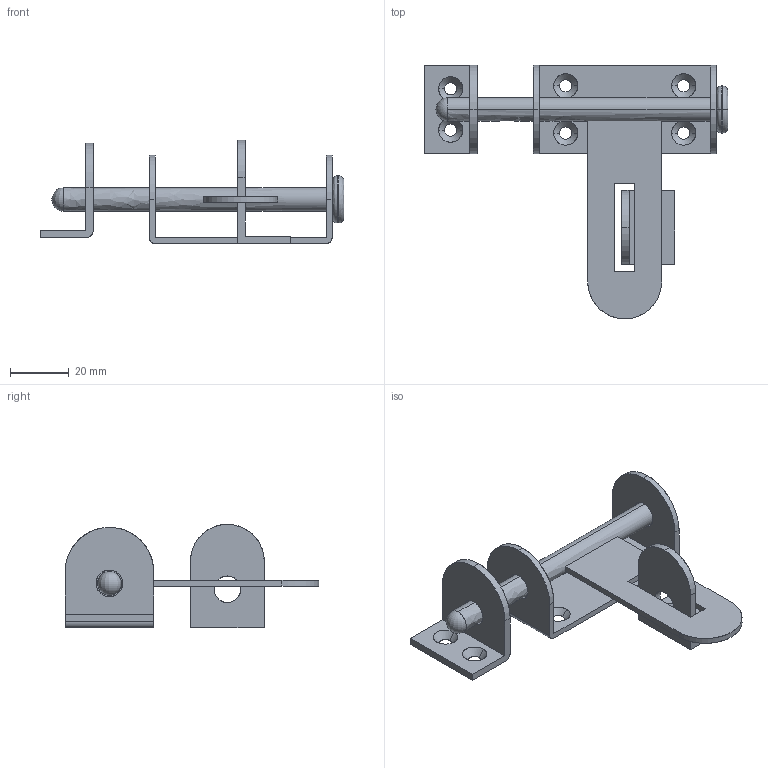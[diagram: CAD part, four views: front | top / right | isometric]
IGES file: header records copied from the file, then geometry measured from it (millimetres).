
Start section: SolidWorks IGES FILE using analytic representation for surfaces
Global section: file name: \\Ls-wvld1d\share\シブタニ\3D設計\ラッチ錠・キャッチ\DL-138S\DL-138S.IGS; native system: SolidWorks 2003 by SolidWorks Corporation; preprocessor: Version 5.3; author: user; date: 130706.140618; units: millimetre
Bounding box: 103 x 86 x 35 mm (x, y, z)
Surface area: 18636.7 mm2 (no closed solid volume)
Topology: 0 solids, 0 shells, 77 faces, 1488 edges, 1488 vertices
Faces by surface type: revolution 41, bspline 36
